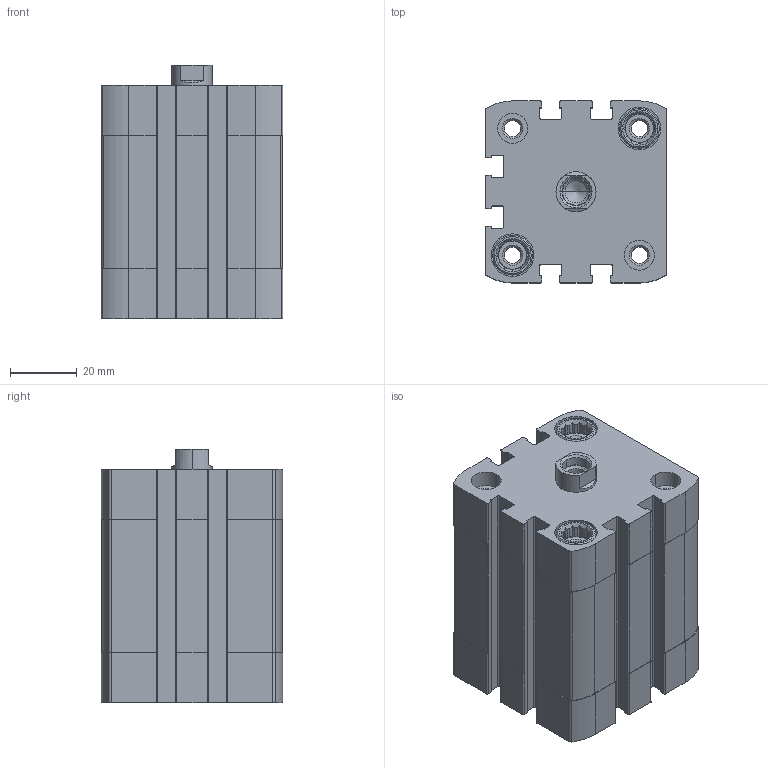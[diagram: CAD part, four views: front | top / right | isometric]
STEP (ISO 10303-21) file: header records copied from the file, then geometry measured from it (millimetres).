
FILE_DESCRIPTION (( 'STEP AP203' ), '1' );
FILE_NAME ('CCN40-25F.STEP', '2017-03-29T16:37:21', ( '' ), ( '' ), 'SwSTEP 2.0', 'SolidWorks 2016', '' );
FILE_SCHEMA (( 'CONFIG_CONTROL_DESIGN' ));
Length unit declared in the file: millimetre
Products named in the file (3): CCN-25--(Z); CCN-25_(KS); CCN40-25F
Assembly tree (2 placements, depth 2):
  CCN40-25F
    CCN-25--(Z)
    CCN-25_(KS)
Bounding box: 54.5 x 54.5 x 76.1 mm (x, y, z)
Volume: 151012 mm3; surface area: 46736.7 mm2
Topology: 2 solids, 2 shells, 479 faces, 1296 edges, 851 vertices
Faces by surface type: plane 267, cylinder 170, cone 42
Entity records: 15569 total; most frequent: CARTESIAN_POINT 2923, DIRECTION 2648, ORIENTED_EDGE 2588, EDGE_CURVE 1294, AXIS2_PLACEMENT_3D 968, VERTEX_POINT 851, LINE 712, VECTOR 712
